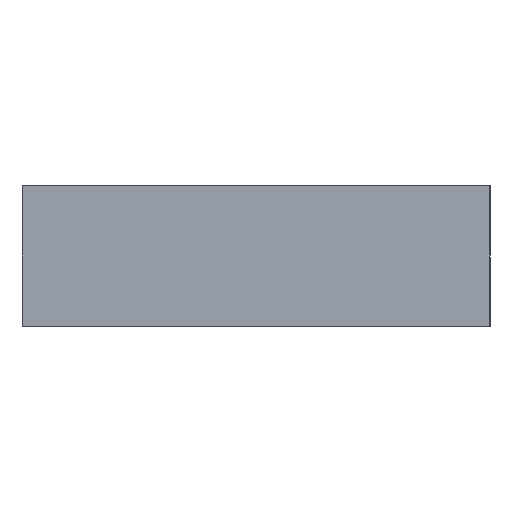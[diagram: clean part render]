
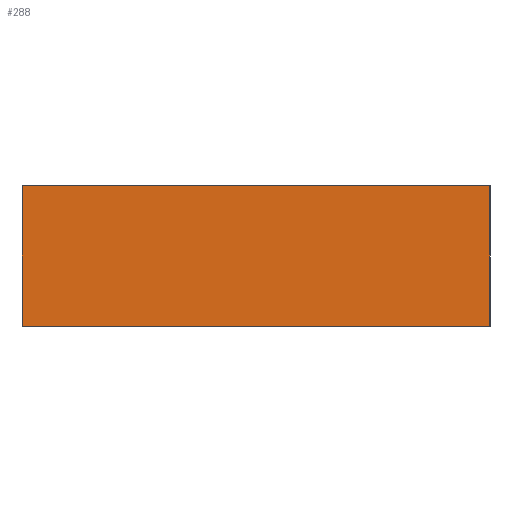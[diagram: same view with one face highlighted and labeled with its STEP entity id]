
A CAD part, left-side view. The second image highlights one B-rep face of the part: STEP entity #288.
In plain terms, the highlighted planar face has unit normal (-1, 0, 0).
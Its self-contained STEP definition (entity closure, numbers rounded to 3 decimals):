
#158=ORIENTED_EDGE('',*,*,#208,.T.);
#159=ORIENTED_EDGE('',*,*,#199,.T.);
#160=ORIENTED_EDGE('',*,*,#203,.T.);
#161=ORIENTED_EDGE('',*,*,#206,.T.);
#167=VECTOR('',#225,1.);
#171=VECTOR('',#231,1.);
#174=VECTOR('',#236,1.);
#176=VECTOR('',#240,1.);
#179=LINE('',#251,#167);
#183=LINE('',#259,#171);
#186=LINE('',#265,#174);
#188=LINE('',#268,#176);
#191=VERTEX_POINT('',#248);
#192=VERTEX_POINT('',#250);
#195=VERTEX_POINT('',#257);
#197=VERTEX_POINT('',#263);
#199=EDGE_CURVE('',#192,#191,#179,.T.);
#203=EDGE_CURVE('',#191,#195,#183,.T.);
#206=EDGE_CURVE('',#195,#197,#186,.T.);
#208=EDGE_CURVE('',#197,#192,#188,.T.);
#214=EDGE_LOOP('',(#158,#159,#160,#161));
#220=FACE_BOUND('',#214,.T.);
#225=DIRECTION('',(0.,-50.,0.));
#231=DIRECTION('',(0.,0.,15.));
#236=DIRECTION('',(0.,50.,0.));
#240=DIRECTION('',(0.,0.,-15.));
#242=DIRECTION('',(-1.,0.,0.));
#243=DIRECTION('',(0.,1.,0.));
#248=CARTESIAN_POINT('',(-11.156,0.,-15.));
#250=CARTESIAN_POINT('',(-11.156,50.,-15.));
#251=CARTESIAN_POINT('',(-11.156,50.,-15.));
#257=CARTESIAN_POINT('',(-11.156,0.,0.));
#259=CARTESIAN_POINT('',(-11.156,0.,-15.));
#263=CARTESIAN_POINT('',(-11.156,50.,0.));
#265=CARTESIAN_POINT('',(-11.156,0.,0.));
#268=CARTESIAN_POINT('',(-11.156,50.,0.));
#270=CARTESIAN_POINT('',(-11.156,50.,0.));
#276=AXIS2_PLACEMENT_3D('',#270,#242,#243);
#282=PLANE('',#276);
#288=ADVANCED_FACE('',(#220),#282,.T.);
